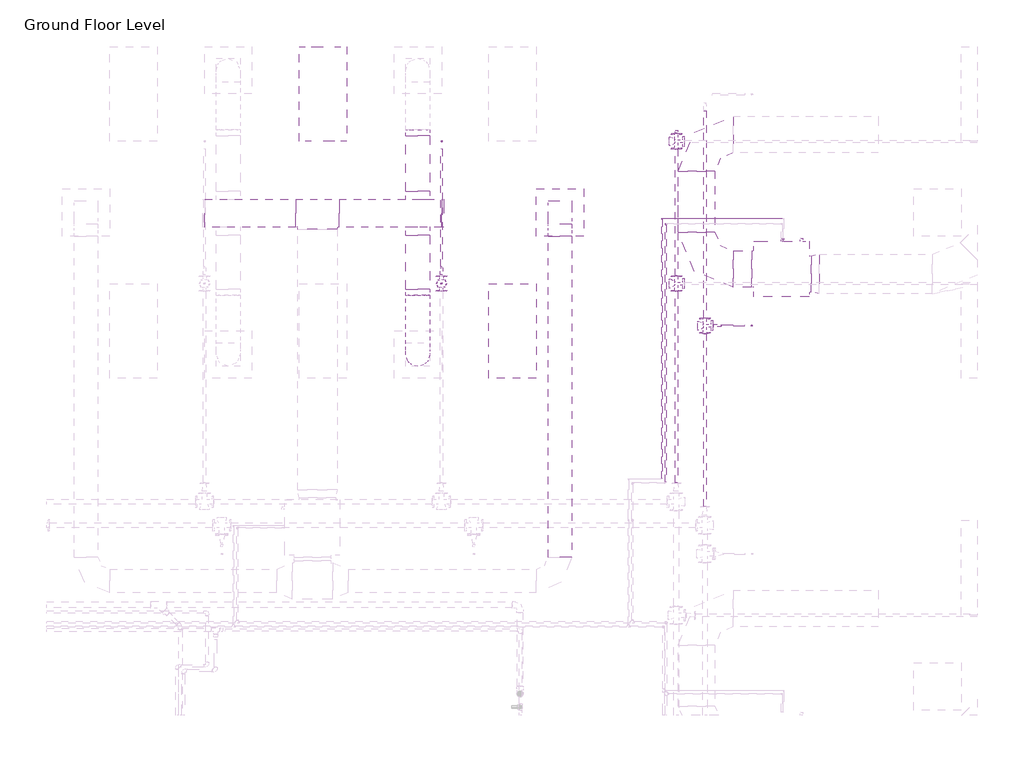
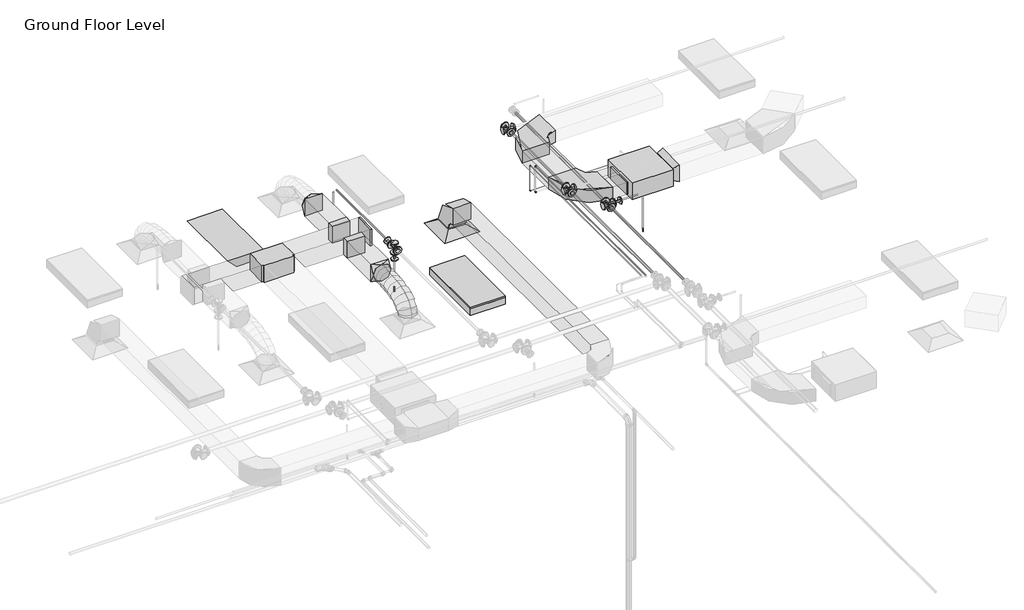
# One storey, part 71 of 74: 15 pipe segments, 11 pipe fittings, 10 duct fittings, 9 duct segments, 3 fire suppression terminals, 2 light fixtures, 1 air terminal, 1 proxy.
"""IFC4 building model written with IfcOpenShell, lengths in millimetres."""

from ifc_helpers import new_model, si_unit, point, frame, frame_2d, origin, place, context, project, spatial, polyline, circle_curve, ellipse_curve, trimmed, segment, composite_curve, outline, extrude, transform, mapped, element, save
from ifc_brep_helpers import plane_surface, cylinder_surface, advanced_brep
from components import m_return_diffuser_600_x_600_face_300_x_300_connection_ff221211, fcu_daikin_iu_bad131e0, m_rectangular_elbow_radius_1_w_618da153, m_rectangular_elbow_radius_1_w_54c96895, m_rectangular_endcap_standard_eed78c44, m_rectangular_takeoff_standard_cb0ccb98, m_rectangular_takeoff_standard_2be5eba1, m_rectangular_tee_standard_9fc1ddf1, m_rectangular_transition_angle_45_degree_2b595dfe, m_rectangular_to_round_transition_angle_45_degree_641efff0, m_sprinkler_dry_pendent_hosted_15_mm_dry_pendent_9bda8e11, m_sprinkler_pendent_15_mm_pendent_06fcbd8e, m_emergency_recessed_lighting_fixture_600x1200_277_5b10b25d, m_troffer_light_parabolic_rectangular1_0600x1200mm_4_lamp_86473d4a, m_elbow_generic_standard_a088f956, m_elbow_generic_standard_2a704253, m_reducer_flanged_cs_class_150_standard_d42b2106, m_tee_round_base_flanged_cs_class_150_standard_7e5987a1

model = new_model("IFC4")

# Units and contexts
model_context = context("Model", 3, world=origin())
ifc_project = project(units=[si_unit("LENGTHUNIT", "METRE", prefix="MILLI")], contexts=[model_context])

# Site, building, storey
site = spatial("IfcSite", under=ifc_project)
building = spatial("IfcBuilding", under=site)
storey = spatial("IfcBuildingStorey", under=building, Name="Ground Floor Level", Elevation=900.0)

# Air terminal
placement = place(None, origin())
m_return_diffuser_600_x_600_face_300_x_300_connection_shape = m_return_diffuser_600_x_600_face_300_x_300_connection_ff221211(model_context)
element("IfcAirTerminal", 1, ObjectType="M_Return Diffuser : 600 x 600 Face 300 x 300 Connection", at=placement, inside=storey, context=model_context, shape_type="MappedRepresentation", body=[
    mapped(m_return_diffuser_600_x_600_face_300_x_300_connection_shape, transform((4162.7672395, 18735.2153534, 3650.0), x_axis=(1.0, 0.0, 0.0), y_axis=(0.0, 1.0, 0.0), z_axis=(0.0, 0.0, 1.0))),
])

# Proxy
fcu_daikin_iu_shape = fcu_daikin_iu_bad131e0(model_context)
element("IfcBuildingElementProxy", 2, Name="FCU-DAIKIN IU : 4.5kW, 230V/50Hz/1Ph", ObjectType="FCU-DAIKIN IU : 4.5kW, 230V/50Hz/1Ph", at=placement, inside=storey, context=model_context, shape_type="MappedRepresentation", body=[
    mapped(fcu_daikin_iu_shape, transform((6968.8139492, 18019.6779527, 3934.0932729), x_axis=(0.0, 1.0, 0.0), y_axis=(-1.0, 0.0, 0.0), z_axis=(0.0, 0.0, 1.0))),
])

# Duct fittings
m_rectangular_elbow_radius_1_w_shape = m_rectangular_elbow_radius_1_w_618da153(model_context)
element("IfcDuctFitting", 3, ObjectType="M_Rectangular Elbow - Radius : 1 W", at=placement, inside=storey, context=model_context, shape_type="MappedRepresentation", body=[
    mapped(m_rectangular_elbow_radius_1_w_shape, transform((4162.7672395, 18735.2153534, 4075.2872564), x_axis=(0.0, 0.0, 1.0), y_axis=(0.0, -1.0, 0.0), z_axis=(1.0, 0.0, 0.0))),
])
m_rectangular_elbow_radius_1_w_2_shape = m_rectangular_elbow_radius_1_w_54c96895(model_context)
element("IfcDuctFitting", 4, ObjectType="M_Rectangular Elbow - Radius : 1 W", at=placement, inside=storey, context=model_context, shape_type="MappedRepresentation", body=[
    mapped(m_rectangular_elbow_radius_1_w_2_shape, transform((5893.4139492, 18019.6779527, 4075.2932729), x_axis=(0.0, -1.0, 0.0), y_axis=(1.0, 0.0, 0.0), z_axis=(0.0, 0.0, 1.0))),
])
element("IfcDuctFitting", 5, ObjectType="M_Rectangular Elbow - Radius : 1 W", at=placement, inside=storey, context=model_context, shape_type="MappedRepresentation", body=[
    mapped(m_rectangular_elbow_radius_1_w_2_shape, transform((5893.4139492, 19719.6783949, 4075.2932729), x_axis=(-1.0, 0.0, 0.0), y_axis=(0.0, -1.0, 0.0), z_axis=(0.0, 0.0, 1.0))),
])
m_rectangular_endcap_standard_shape = m_rectangular_endcap_standard_eed78c44(model_context)
element("IfcDuctFitting", 6, ObjectType="M_Rectangular Endcap : Standard", at=placement, inside=storey, context=model_context, shape_type="MappedRepresentation", body=[
    mapped(m_rectangular_endcap_standard_shape, transform((2666.2672001, 18724.6783949, 4099.998205), x_axis=(0.9999999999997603, 0.0, -6.924715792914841e-07), y_axis=(0.0, 1.0000000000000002, 0.0), z_axis=(6.924715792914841e-07, 0.0, 0.9999999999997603))),
])
m_rectangular_takeoff_standard_shape = m_rectangular_takeoff_standard_cb0ccb98(model_context)
element("IfcDuctFitting", 7, ObjectType="M_Rectangular Takeoff : Standard", at=placement, inside=storey, context=model_context, shape_type="MappedRepresentation", body=[
    mapped(m_rectangular_takeoff_standard_shape, transform((2362.7672395, 18899.6783949, 4099.9984152), x_axis=(0.0, 1.0, 0.0), y_axis=(1.0, 0.0, 0.0), z_axis=(0.0, 0.0, -1.0))),
])
m_rectangular_takeoff_standard_2_shape = m_rectangular_takeoff_standard_2be5eba1(model_context)
element("IfcDuctFitting", 8, ObjectType="M_Rectangular Takeoff : Standard", at=placement, inside=storey, context=model_context, shape_type="MappedRepresentation", body=[
    mapped(m_rectangular_takeoff_standard_2_shape, transform((2362.7672395, 18549.6783949, 4099.9984152), x_axis=(0.0, -1.0, 0.0), y_axis=(-1.0, 0.0, 0.0), z_axis=(0.0, 0.0, -1.0))),
])
m_rectangular_tee_standard_shape = m_rectangular_tee_standard_9fc1ddf1(model_context)
element("IfcDuctFitting", 9, ObjectType="M_Rectangular Tee : Standard", at=placement, inside=storey, context=model_context, shape_type="MappedRepresentation", body=[
    mapped(m_rectangular_tee_standard_shape, transform((1091.2672395, 18724.6783949, 4099.9992264), x_axis=(0.999999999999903, 0.0, -4.406637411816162e-07), y_axis=(-1.704451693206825e-12, 0.9999999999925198, -3.867919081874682e-06), z_axis=(4.406637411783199e-07, 3.867919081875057e-06, 0.9999999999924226))),
])
m_rectangular_transition_angle_45_degree_shape = m_rectangular_transition_angle_45_degree_2b595dfe(model_context)
element("IfcDuctFitting", 10, ObjectType="M_Rectangular Transition - Angle : 45 Degree", at=placement, inside=storey, context=model_context, shape_type="MappedRepresentation", body=[
    mapped(m_rectangular_transition_angle_45_degree_shape, transform((7344.2139492, 17956.1779527, 4100.0057729), x_axis=(1.0, 0.0, 0.0), y_axis=(0.0, 1.0, 0.0), z_axis=(0.0, 0.0, 1.0))),
])
m_rectangular_to_round_transition_angle_45_degree_shape = m_rectangular_to_round_transition_angle_45_degree_641efff0(model_context)
element("IfcDuctFitting", 11, ObjectType="M_Rectangular to Round Transition - Angle : 45 Degree", at=placement, inside=storey, context=model_context, shape_type="MappedRepresentation", body=[
    mapped(m_rectangular_to_round_transition_angle_45_degree_shape, transform((2362.7672395, 19707.8778373, 4099.9984152), x_axis=(0.0, 1.0, 0.0), y_axis=(-1.0, 0.0, 0.0), z_axis=(0.0, 0.0, 1.0))),
])
element("IfcDuctFitting", 12, ObjectType="M_Rectangular to Round Transition - Angle : 45 Degree", at=placement, inside=storey, context=model_context, shape_type="MappedRepresentation", body=[
    mapped(m_rectangular_to_round_transition_angle_45_degree_shape, transform((2362.7672395, 17762.5528695, 4099.9984152), x_axis=(0.0, -1.0, 0.0), y_axis=(1.0, 0.0, 0.0), z_axis=(0.0, 0.0, 1.0))),
])

# Duct segments
element("IfcDuctSegment", 13, ObjectType="Flex - Round", at=placement, inside=storey, context=model_context, shape_type="AdvancedBrep", body=[
    advanced_brep(
    [(2512.7672395, 16935.2153534, 3826.6), (2362.7672395, 16785.2153534, 3826.6), (2212.7672395, 16935.2153534, 3826.6), (2362.7672395, 17085.2153534, 3826.6), (2512.7672395, 16935.2153534, 3857.937778), (2362.7672395, 16785.2153534, 3883.5810816), (2212.7672395, 16935.2153534, 3857.937778), (2362.7672395, 17085.2153534, 3832.2944744), (2512.7672395, 16952.2313299, 3906.2506017), (2362.7672395, 16818.4934508, 3978.0663351), (2212.7672395, 16952.2313299, 3906.2506017), (2362.7672395, 17085.969209, 3834.4348684), (2512.7672395, 16999.4153299, 3968.7112406), (2362.7672395, 16895.2097019, 4079.6208039), (2212.7672395, 16999.4153299, 3968.7112406), (2362.7672395, 17103.6209579, 3857.8016772), (2512.7672395, 17070.9714591, 4016.0697935), (2362.7672395, 17002.0378309, 4150.3237004), (2212.7672395, 17070.9714591, 4016.0697935), (2362.7672395, 17139.9050873, 3881.8158865), (2512.7672395, 17161.1038233, 4050.4141374), (2362.7672395, 17117.5435273, 4194.3363855), (2212.7672395, 17161.1038233, 4050.4141374), (2362.7672395, 17204.6641192, 3906.4918893), (2512.7672395, 17264.0165282, 4073.8321493), (2362.7672395, 17237.4560471, 4221.6227426), (2212.7672395, 17264.0165282, 4073.8321493), (2362.7672395, 17290.5770092, 3926.0415559), (2512.7672395, 17373.9136795, 4088.411706), (2362.7672395, 17358.7631621, 4237.7160075), (2212.7672395, 17373.9136795, 4088.411706), (2362.7672395, 17389.0641968, 3939.1074046), (2512.7672395, 17484.999383, 4096.2406846), (2362.7672395, 17477.4943543, 4246.0838166), (2212.7672395, 17484.999383, 4096.2406846), (2362.7672395, 17492.5044117, 3946.3975526), (2512.7672395, 17591.4777444, 4099.406962), (2362.7672395, 17588.7864273, 4249.3932362), (2212.7672395, 17591.4777444, 4099.406962), (2362.7672395, 17594.1690615, 3949.4206879), (2512.7672395, 17687.5528695, 4099.9984152), (2362.7672395, 17688.4762749, 3950.0012575), (2212.7672395, 17687.5528695, 4099.9984152), (2362.7672395, 17686.6294641, 4249.9955729)],
    [
        (0, 1, circle_curve(frame((2362.7672395, 16935.2153534, 3826.6), z_axis=(0.0, 0.0, -1.0), x_axis=(1.0, 0.0, 0.0)), 150.0)),
        (1, 2, circle_curve(frame((2362.7672395, 16935.2153534, 3826.6), z_axis=(0.0, 0.0, -1.0), x_axis=(1.0, 0.0, 0.0)), 150.0)),
        (2, 3, circle_curve(frame((2362.7672395, 16935.2153534, 3826.6), z_axis=(0.0, 0.0, -1.0), x_axis=(1.0, 0.0, 0.0)), 150.0)),
        (3, 0, circle_curve(frame((2362.7672395, 16935.2153534, 3826.6), z_axis=(0.0, 0.0, -1.0), x_axis=(1.0, 0.0, 0.0)), 150.0)),
        (0, 4),
        (4, 5, ellipse_curve(frame((2362.7672395, 16935.2153534, 3857.937778), z_axis=(0.0, -0.16851066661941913, -0.9856998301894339), x_axis=(0.0, 0.9856998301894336, -0.16851066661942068)), 152.1761447, 150.0)),
        (5, 1),
        (5, 6, ellipse_curve(frame((2362.7672395, 16935.2153534, 3857.937778), z_axis=(0.0, -0.16851066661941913, -0.9856998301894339), x_axis=(0.0, 0.9856998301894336, -0.16851066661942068)), 152.1761447, 150.0)),
        (6, 2),
        (6, 7, ellipse_curve(frame((2362.7672395, 16935.2153534, 3857.937778), z_axis=(0.0, -0.16851066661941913, -0.9856998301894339), x_axis=(0.0, 0.9856998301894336, -0.16851066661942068)), 152.1761447, 150.0)),
        (7, 3),
        (7, 4, ellipse_curve(frame((2362.7672395, 16935.2153534, 3857.937778), z_axis=(0.0, -0.16851066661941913, -0.9856998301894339), x_axis=(0.0, 0.9856998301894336, -0.16851066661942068)), 152.1761447, 150.0)),
        (4, 8),
        (8, 9, ellipse_curve(frame((2362.7672395, 16952.2313299, 3906.2506017), z_axis=(0.0, -0.4730936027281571, -0.8810121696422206), x_axis=(0.0, 0.8810121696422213, -0.47309360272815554)), 151.8002631, 150.0)),
        (9, 5),
        (9, 10, ellipse_curve(frame((2362.7672395, 16952.2313299, 3906.2506017), z_axis=(0.0, -0.4730936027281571, -0.8810121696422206), x_axis=(0.0, 0.8810121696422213, -0.47309360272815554)), 151.8002631, 150.0)),
        (10, 6),
        (10, 11, ellipse_curve(frame((2362.7672395, 16952.2313299, 3906.2506017), z_axis=(0.0, -0.4730936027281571, -0.8810121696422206), x_axis=(0.0, 0.8810121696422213, -0.47309360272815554)), 151.8002631, 150.0)),
        (11, 7),
        (11, 8, ellipse_curve(frame((2362.7672395, 16952.2313299, 3906.2506017), z_axis=(0.0, -0.4730936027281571, -0.8810121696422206), x_axis=(0.0, 0.8810121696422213, -0.47309360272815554)), 151.8002631, 150.0)),
        (8, 12),
        (12, 13, ellipse_curve(frame((2362.7672395, 16999.4153299, 3968.7112406), z_axis=(0.0, -0.7287895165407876, -0.6847377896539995), x_axis=(0.0, 0.6847377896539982, -0.7287895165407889)), 152.1832584, 150.0)),
        (13, 9),
        (13, 14, ellipse_curve(frame((2362.7672395, 16999.4153299, 3968.7112406), z_axis=(0.0, -0.7287895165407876, -0.6847377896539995), x_axis=(0.0, 0.6847377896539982, -0.7287895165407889)), 152.1832584, 150.0)),
        (14, 10),
        (14, 15, ellipse_curve(frame((2362.7672395, 16999.4153299, 3968.7112406), z_axis=(0.0, -0.7287895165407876, -0.6847377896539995), x_axis=(0.0, 0.6847377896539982, -0.7287895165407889)), 152.1832584, 150.0)),
        (15, 11),
        (15, 12, ellipse_curve(frame((2362.7672395, 16999.4153299, 3968.7112406), z_axis=(0.0, -0.7287895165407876, -0.6847377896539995), x_axis=(0.0, 0.6847377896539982, -0.7287895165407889)), 152.1832584, 150.0)),
        (12, 16),
        (16, 17, ellipse_curve(frame((2362.7672395, 17070.9714591, 4016.0697935), z_axis=(0.0, -0.8895873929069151, -0.45676500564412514), x_axis=(0.0, 0.45676500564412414, -0.8895873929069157)), 150.9170521, 150.0)),
        (17, 13),
        (17, 18, ellipse_curve(frame((2362.7672395, 17070.9714591, 4016.0697935), z_axis=(0.0, -0.8895873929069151, -0.45676500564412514), x_axis=(0.0, 0.45676500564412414, -0.8895873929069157)), 150.9170521, 150.0)),
        (18, 14),
        (18, 19, ellipse_curve(frame((2362.7672395, 17070.9714591, 4016.0697935), z_axis=(0.0, -0.8895873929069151, -0.45676500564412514), x_axis=(0.0, 0.45676500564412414, -0.8895873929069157)), 150.9170521, 150.0)),
        (19, 15),
        (19, 16, ellipse_curve(frame((2362.7672395, 17070.9714591, 4016.0697935), z_axis=(0.0, -0.8895873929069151, -0.45676500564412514), x_axis=(0.0, 0.45676500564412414, -0.8895873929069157)), 150.9170521, 150.0)),
        (16, 20),
        (20, 21, ellipse_curve(frame((2362.7672395, 17161.1038233, 4050.4141374), z_axis=(0.0, -0.9571212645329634, -0.2896875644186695), x_axis=(0.0, 0.2896875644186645, -0.957121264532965)), 150.3699202, 150.0)),
        (21, 17),
        (21, 22, ellipse_curve(frame((2362.7672395, 17161.1038233, 4050.4141374), z_axis=(0.0, -0.9571212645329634, -0.2896875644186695), x_axis=(0.0, 0.2896875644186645, -0.957121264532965)), 150.3699202, 150.0)),
        (22, 18),
        (22, 23, ellipse_curve(frame((2362.7672395, 17161.1038233, 4050.4141374), z_axis=(0.0, -0.9571212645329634, -0.2896875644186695), x_axis=(0.0, 0.2896875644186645, -0.957121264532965)), 150.3699202, 150.0)),
        (23, 19),
        (23, 20, ellipse_curve(frame((2362.7672395, 17161.1038233, 4050.4141374), z_axis=(0.0, -0.9571212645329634, -0.2896875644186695), x_axis=(0.0, 0.2896875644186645, -0.957121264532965)), 150.3699202, 150.0)),
        (20, 24),
        (24, 25, ellipse_curve(frame((2362.7672395, 17264.0165282, 4073.8321493), z_axis=(0.0, -0.9842318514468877, -0.17688318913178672), x_axis=(0.0, 0.17688318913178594, -0.9842318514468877)), 150.1583119, 150.0)),
        (25, 21),
        (25, 26, ellipse_curve(frame((2362.7672395, 17264.0165282, 4073.8321493), z_axis=(0.0, -0.9842318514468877, -0.17688318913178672), x_axis=(0.0, 0.17688318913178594, -0.9842318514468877)), 150.1583119, 150.0)),
        (26, 22),
        (26, 27, ellipse_curve(frame((2362.7672395, 17264.0165282, 4073.8321493), z_axis=(0.0, -0.9842318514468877, -0.17688318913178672), x_axis=(0.0, 0.17688318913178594, -0.9842318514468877)), 150.1583119, 150.0)),
        (27, 23),
        (27, 24, ellipse_curve(frame((2362.7672395, 17264.0165282, 4073.8321493), z_axis=(0.0, -0.9842318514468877, -0.17688318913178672), x_axis=(0.0, 0.17688318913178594, -0.9842318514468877)), 150.1583119, 150.0)),
        (24, 28),
        (28, 29, ellipse_curve(frame((2362.7672395, 17373.9136795, 4088.411706), z_axis=(0.0, -0.9948909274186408, -0.10095564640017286), x_axis=(0.0, 0.10095564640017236, -0.9948909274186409)), 150.0710252, 150.0)),
        (29, 25),
        (29, 30, ellipse_curve(frame((2362.7672395, 17373.9136795, 4088.411706), z_axis=(0.0, -0.9948909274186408, -0.10095564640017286), x_axis=(0.0, 0.10095564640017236, -0.9948909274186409)), 150.0710252, 150.0)),
        (30, 26),
        (30, 31, ellipse_curve(frame((2362.7672395, 17373.9136795, 4088.411706), z_axis=(0.0, -0.9948909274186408, -0.10095564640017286), x_axis=(0.0, 0.10095564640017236, -0.9948909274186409)), 150.0710252, 150.0)),
        (31, 27),
        (31, 28, ellipse_curve(frame((2362.7672395, 17373.9136795, 4088.411706), z_axis=(0.0, -0.9948909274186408, -0.10095564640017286), x_axis=(0.0, 0.10095564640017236, -0.9948909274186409)), 150.0710252, 150.0)),
        (28, 32),
        (32, 33, ellipse_curve(frame((2362.7672395, 17484.999383, 4096.2406846), z_axis=(0.0, -0.9987480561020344, -0.05002319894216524), x_axis=(0.0, 0.0500231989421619, -0.9987480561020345)), 150.0309623, 150.0)),
        (33, 29),
        (33, 34, ellipse_curve(frame((2362.7672395, 17484.999383, 4096.2406846), z_axis=(0.0, -0.9987480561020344, -0.05002319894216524), x_axis=(0.0, 0.0500231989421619, -0.9987480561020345)), 150.0309623, 150.0)),
        (34, 30),
        (34, 35, ellipse_curve(frame((2362.7672395, 17484.999383, 4096.2406846), z_axis=(0.0, -0.9987480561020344, -0.05002319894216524), x_axis=(0.0, 0.0500231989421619, -0.9987480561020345)), 150.0309623, 150.0)),
        (35, 31),
        (35, 32, ellipse_curve(frame((2362.7672395, 17484.999383, 4096.2406846), z_axis=(0.0, -0.9987480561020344, -0.05002319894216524), x_axis=(0.0, 0.0500231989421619, -0.9987480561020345)), 150.0309623, 150.0)),
        (32, 36),
        (36, 37, ellipse_curve(frame((2362.7672395, 17591.4777444, 4099.406962), z_axis=(0.0, -0.99983904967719, -0.0179408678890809), x_axis=(0.0, 0.017940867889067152, -0.9998390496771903)), 150.0104184, 150.0)),
        (37, 33),
        (37, 38, ellipse_curve(frame((2362.7672395, 17591.4777444, 4099.406962), z_axis=(0.0, -0.99983904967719, -0.0179408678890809), x_axis=(0.0, 0.017940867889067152, -0.9998390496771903)), 150.0104184, 150.0)),
        (38, 34),
        (38, 39, ellipse_curve(frame((2362.7672395, 17591.4777444, 4099.406962), z_axis=(0.0, -0.99983904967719, -0.0179408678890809), x_axis=(0.0, 0.017940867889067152, -0.9998390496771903)), 150.0104184, 150.0)),
        (39, 35),
        (39, 36, ellipse_curve(frame((2362.7672395, 17591.4777444, 4099.406962), z_axis=(0.0, -0.99983904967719, -0.0179408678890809), x_axis=(0.0, 0.017940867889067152, -0.9998390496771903)), 150.0104184, 150.0)),
        (40, 41, circle_curve(frame((2362.7672395, 17687.5528695, 4099.9984152), z_axis=(0.0, 0.9999810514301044, 0.006156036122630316), x_axis=(1.0, 0.0, 0.0)), 150.0)),
        (41, 42, circle_curve(frame((2362.7672395, 17687.5528695, 4099.9984152), z_axis=(0.0, 0.9999810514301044, 0.006156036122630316), x_axis=(1.0, 0.0, 0.0)), 150.0)),
        (42, 43, circle_curve(frame((2362.7672395, 17687.5528695, 4099.9984152), z_axis=(0.0, 0.9999810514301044, 0.006156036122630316), x_axis=(1.0, 0.0, 0.0)), 150.0)),
        (43, 40, circle_curve(frame((2362.7672395, 17687.5528695, 4099.9984152), z_axis=(0.0, 0.9999810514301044, 0.006156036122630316), x_axis=(1.0, 0.0, 0.0)), 150.0)),
        (36, 40),
        (43, 37),
        (42, 38),
        (41, 39),
    ],
    [
        plane_surface(frame((2362.7672395, 16785.2153534, 3826.6), z_axis=(0.0, 0.0, -1.0), x_axis=(1.0, 0.0, 0.0))),
        cylinder_surface(frame((2362.7672395, 16935.2153534, 3826.6), z_axis=(0.0, 0.0, -1.0), x_axis=(1.0, 0.0, 0.0)), 150.0),
        cylinder_surface(frame((2362.7672395, 16935.2153534, 3857.937778), z_axis=(0.0, -0.33220187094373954, -0.943208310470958), x_axis=(1.0, 0.0, 0.0)), 150.0),
        cylinder_surface(frame((2362.7672395, 16952.2313299, 3906.2506017), z_axis=(0.0, -0.6027641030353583, -0.7979194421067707), x_axis=(1.0, 0.0, 0.0)), 150.0),
        cylinder_surface(frame((2362.7672395, 16999.4153299, 3968.7112406), z_axis=(0.0, -0.8339041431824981, -0.5519093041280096), x_axis=(1.0, 0.0, 0.0)), 150.0),
        cylinder_surface(frame((2362.7672395, 17070.9714591, 4016.0697935), z_axis=(0.0, -0.9344594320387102, -0.35606961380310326), x_axis=(1.0, 0.0, 0.0)), 150.0),
        cylinder_surface(frame((2362.7672395, 17161.1038233, 4050.4141374), z_axis=(0.0, -0.9750739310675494, -0.2218802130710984), x_axis=(1.0, 0.0, 0.0)), 150.0),
        cylinder_surface(frame((2362.7672395, 17264.0165282, 4073.8321493), z_axis=(0.0, -0.9913144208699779, -0.13151318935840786), x_axis=(1.0, 0.0, 0.0)), 150.0),
        cylinder_surface(frame((2362.7672395, 17373.9136795, 4088.411706), z_axis=(0.0, -0.9975257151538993, -0.07030254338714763), x_axis=(1.0, 0.0, 0.0)), 150.0),
        cylinder_surface(frame((2362.7672395, 17484.999383, 4096.2406846), z_axis=(0.0, -0.9995581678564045, -0.029723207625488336), x_axis=(1.0, 0.0, 0.0)), 150.0),
        plane_surface(frame((2362.7672395, 17686.6294641, 4249.9955729), z_axis=(0.0, 0.9999810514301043, 0.006156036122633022), x_axis=(1.0, 0.0, 0.0))),
        cylinder_surface(frame((2362.7672395, 17591.4777444, 4099.406962), z_axis=(0.0, -0.9999810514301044, -0.006156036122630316), x_axis=(1.0, 0.0, 0.0)), 150.0),
    ],
    [
        (0, [[1, 2, 3, 4]]),
        (1, [[-1, 5, 6, 7]]),
        (1, [[-2, -7, 8, 9]]),
        (1, [[-3, -9, 10, 11]]),
        (1, [[-4, -11, 12, -5]]),
        (2, [[-6, 13, 14, 15]]),
        (2, [[-8, -15, 16, 17]]),
        (2, [[-10, -17, 18, 19]]),
        (2, [[-12, -19, 20, -13]]),
        (3, [[-14, 21, 22, 23]]),
        (3, [[-16, -23, 24, 25]]),
        (3, [[-18, -25, 26, 27]]),
        (3, [[-20, -27, 28, -21]]),
        (4, [[-22, 29, 30, 31]]),
        (4, [[-24, -31, 32, 33]]),
        (4, [[-26, -33, 34, 35]]),
        (4, [[-28, -35, 36, -29]]),
        (5, [[-30, 37, 38, 39]]),
        (5, [[-32, -39, 40, 41]]),
        (5, [[-34, -41, 42, 43]]),
        (5, [[-36, -43, 44, -37]]),
        (6, [[-38, 45, 46, 47]]),
        (6, [[-40, -47, 48, 49]]),
        (6, [[-42, -49, 50, 51]]),
        (6, [[-44, -51, 52, -45]]),
        (7, [[-46, 53, 54, 55]]),
        (7, [[-48, -55, 56, 57]]),
        (7, [[-50, -57, 58, 59]]),
        (7, [[-52, -59, 60, -53]]),
        (8, [[-54, 61, 62, 63]]),
        (8, [[-56, -63, 64, 65]]),
        (8, [[-58, -65, 66, 67]]),
        (8, [[-60, -67, 68, -61]]),
        (9, [[-62, 69, 70, 71]]),
        (9, [[-64, -71, 72, 73]]),
        (9, [[-66, -73, 74, 75]]),
        (9, [[-68, -75, 76, -69]]),
        (10, [[77, 78, 79, 80]]),
        (11, [[-70, 81, -80, 82]]),
        (11, [[-72, -82, -79, 83]]),
        (11, [[-74, -83, -78, 84]]),
        (11, [[-76, -84, -77, -81]]),
    ],
),
])
element("IfcDuctSegment", 14, ObjectType="Radius Elbows / Taps", at=placement, inside=storey, context=model_context, shape_type="SweptSolid", body=[
    extrude(outline(polyline([(1366.2672395, 18549.6783949), (1366.2672395, 18899.6783949), (2666.2672001, 18899.6783949), (2666.2672001, 18549.6783949), (1366.2672395, 18549.6783949)])), frame((0.0, 0.0, 3949.9991052), z_axis=(0.0, 0.0, 1.0), x_axis=(1.0, 0.0, 0.0)), (0.0, 0.0, 1.0), 300.0),
])
element("IfcDuctSegment", 15, ObjectType="Radius Elbows / Taps", at=placement, inside=storey, context=model_context, shape_type="SweptSolid", body=[
    extrude(outline(polyline([(816.2672395, 18899.6783949), (816.2672395, 18549.6783949), (-337.2326293, 18549.6783949), (-337.2326293, 18899.6783949), (816.2672395, 18899.6783949)])), frame((0.0, 0.0, 3949.9993476), z_axis=(0.0, 0.0, 1.0), x_axis=(1.0, 0.0, 0.0)), (0.0, 0.0, 1.0), 300.0),
])
element("IfcDuctSegment", 16, ObjectType="Radius Elbows / Taps", at=placement, inside=storey, context=model_context, shape_type="SweptSolid", body=[
    extrude(outline(polyline([(4312.7672395, 14369.8153534), (4012.7672395, 14369.8153534), (4012.7672395, 18435.2153534), (4312.7672395, 18435.2153534), (4312.7672395, 14369.8153534)])), frame((0.0, 0.0, 3925.2872564), z_axis=(0.0, 0.0, 1.0), x_axis=(1.0, 0.0, 0.0)), (0.0, 0.0, 1.0), 300.0),
])
element("IfcDuctSegment", 17, ObjectType="Radius Elbows / Taps", at=placement, inside=storey, context=model_context, shape_type="SweptSolid", body=[
    extrude(outline(polyline([(4312.7672395, 18585.2153534), (4012.7672395, 18585.2153534), (4012.7672395, 18885.2153534), (4312.7672395, 18885.2153534), (4312.7672395, 18585.2153534)])), frame((0.0, 0.0, 3751.6), z_axis=(0.0, 0.0, 1.0), x_axis=(1.0, 0.0, 0.0)), (0.0, 0.0, 1.0), 23.6872564),
])
element("IfcDuctSegment", 18, ObjectType="Radius Elbows / Taps", at=placement, inside=storey, context=model_context, shape_type="SweptSolid", body=[
    extrude(outline(polyline([(6593.4139492, 18250.6154527), (6593.4139492, 17788.7404527), (6355.2889492, 17788.7404527), (6355.2889492, 18250.6154527), (6593.4139492, 18250.6154527)])), frame((0.0, 0.0, 3968.1432729), z_axis=(0.0, 0.0, 1.0), x_axis=(1.0, 0.0, 0.0)), (0.0, 0.0, 1.0), 214.3),
])
element("IfcDuctSegment", 19, ObjectType="Radius Elbows / Taps", at=placement, inside=storey, context=model_context, shape_type="SweptSolid", body=[
    extrude(outline(polyline([(6124.3514492, 18481.5529527), (5662.4764492, 18481.5529527), (5662.4764492, 19257.8033949), (6124.3514492, 19257.8033949), (6124.3514492, 18481.5529527)])), frame((0.0, 0.0, 3968.1432729), z_axis=(0.0, 0.0, 1.0), x_axis=(1.0, 0.0, 0.0)), (0.0, 0.0, 1.0), 214.3),
])
element("IfcDuctSegment", 20, ObjectType="Radius Elbows / Taps", at=placement, inside=storey, context=model_context, shape_type="SweptSolid", body=[
    extrude(outline(polyline([(2512.7672395, 19001.2783949), (2212.7672395, 19001.2783949), (2212.7672395, 19707.8778373), (2512.7672395, 19707.8778373), (2512.7672395, 19001.2783949)])), frame((0.0, 0.0, 3949.9984152), z_axis=(0.0, 0.0, 1.0), x_axis=(1.0, 0.0, 0.0)), (0.0, 0.0, 1.0), 300.0),
])
element("IfcDuctSegment", 21, ObjectType="Radius Elbows / Taps", at=placement, inside=storey, context=model_context, shape_type="SweptSolid", body=[
    extrude(outline(polyline([(2212.7672395, 18448.0783949), (2512.7672395, 18448.0783949), (2512.7672395, 17762.5528695), (2212.7672395, 17762.5528695), (2212.7672395, 18448.0783949)])), frame((0.0, 0.0, 3949.9984152), z_axis=(0.0, 0.0, 1.0), x_axis=(1.0, 0.0, 0.0)), (0.0, 0.0, 1.0), 300.0),
])

# Fire suppression terminals
m_sprinkler_dry_pendent_hosted_15_mm_dry_pendent_shape = m_sprinkler_dry_pendent_hosted_15_mm_dry_pendent_9bda8e11(model_context)
element("IfcFireSuppressionTerminal", 22, ObjectType="M_Sprinkler - Dry - Pendent - Hosted : 15 mm Dry Pendent", at=placement, inside=storey, context=model_context, shape_type="MappedRepresentation", body=[
    mapped(m_sprinkler_dry_pendent_hosted_15_mm_dry_pendent_shape, transform((2662.7672395, 19635.2153534, 3650.0), x_axis=(1.0, 0.0, 0.0), y_axis=(0.0, -1.0, 0.0), z_axis=(0.0, 0.0, -1.0))),
])
element("IfcFireSuppressionTerminal", 23, ObjectType="M_Sprinkler - Dry - Pendent - Hosted : 15 mm Dry Pendent", at=placement, inside=storey, context=model_context, shape_type="MappedRepresentation", body=[
    mapped(m_sprinkler_dry_pendent_hosted_15_mm_dry_pendent_shape, transform((2662.7672395, 17835.2153534, 3650.0), x_axis=(1.0, 0.0, 0.0), y_axis=(0.0, -1.0, 0.0), z_axis=(0.0, 0.0, -1.0))),
])
m_sprinkler_pendent_15_mm_pendent_shape = m_sprinkler_pendent_15_mm_pendent_06fcbd8e(model_context)
element("IfcFireSuppressionTerminal", 24, ObjectType="M_Sprinkler - Pendent : 15 mm Pendent", at=placement, inside=storey, context=model_context, shape_type="MappedRepresentation", body=[
    mapped(m_sprinkler_pendent_15_mm_pendent_shape, transform((6592.5481019, 17301.8585069, 3650.0), x_axis=(1.0, 0.0, 0.0), y_axis=(0.0, 1.0, 0.0), z_axis=(0.0, 0.0, 1.0))),
])

# Light fixtures
m_emergency_recessed_lighting_fixture_600x1200_277_shape = m_emergency_recessed_lighting_fixture_600x1200_277_5b10b25d(model_context)
element("IfcLightFixture", 25, ObjectType="M_Emergency Recessed Lighting Fixture : 600x1200 - 277", at=placement, inside=storey, context=model_context, shape_type="MappedRepresentation", body=[
    mapped(m_emergency_recessed_lighting_fixture_600x1200_277_shape, transform((862.7672395, 19635.2153534, 3650.0), x_axis=(0.0, 1.0, 0.0), y_axis=(-1.0, 0.0, 0.0), z_axis=(0.0, 0.0, 1.0))),
])
m_troffer_light_parabolic_rectangular1_0600x1200mm_4_lamp_shape = m_troffer_light_parabolic_rectangular1_0600x1200mm_4_lamp_86473d4a(model_context)
element("IfcLightFixture", 26, ObjectType="M_Troffer Light - Parabolic Rectangular1 : 0600x1200mm(4 Lamp) - 277V 2", at=placement, inside=storey, context=model_context, shape_type="MappedRepresentation", body=[
    mapped(m_troffer_light_parabolic_rectangular1_0600x1200mm_4_lamp_shape, transform((3503.3013074, 17253.918855, 3650.0), x_axis=(0.0, 1.0, 0.0), y_axis=(-1.0, 0.0, 0.0), z_axis=(0.0, 0.0, 1.0))),
])

# Pipe fittings
m_elbow_generic_standard_shape = m_elbow_generic_standard_a088f956(model_context)
element("IfcPipeFitting", 27, ObjectType="M_Elbow - Generic : Standard", at=placement, inside=storey, context=model_context, shape_type="MappedRepresentation", body=[
    mapped(m_elbow_generic_standard_shape, transform((5501.7675988, 18590.9278534, 4380.0), x_axis=(0.0, 0.0, 1.0), y_axis=(0.0, -1.0, 0.0), z_axis=(1.0, 0.0, 0.0))),
])
element("IfcPipeFitting", 28, ObjectType="M_Elbow - Generic : Standard", at=placement, inside=storey, context=model_context, shape_type="MappedRepresentation", body=[
    mapped(m_elbow_generic_standard_shape, transform((5501.7675988, 18590.9278534, 3900.0), x_axis=(0.0, 0.0, -1.0), y_axis=(1.0, 0.0, 0.0), z_axis=(0.0, -1.0, 0.0))),
])
m_elbow_generic_standard_2_shape = m_elbow_generic_standard_2a704253(model_context)
element("IfcPipeFitting", 29, ObjectType="M_Elbow - Generic : Standard", at=placement, inside=storey, context=model_context, shape_type="MappedRepresentation", body=[
    mapped(m_elbow_generic_standard_2_shape, transform((5452.0810646, 18659.0778536, 4365.0), x_axis=(0.0, 1.0, 0.0), y_axis=(0.0, 0.0, -1.0), z_axis=(-1.0, 0.0, 0.0))),
])
element("IfcPipeFitting", 30, ObjectType="M_Elbow - Generic : Standard", at=placement, inside=storey, context=model_context, shape_type="MappedRepresentation", body=[
    mapped(m_elbow_generic_standard_2_shape, transform((5452.0810646, 18659.0778534, 3900.0), x_axis=(0.0, 0.0, -1.0), y_axis=(1.0, 0.0, 0.0), z_axis=(0.0, -1.0, 0.0))),
])
m_reducer_flanged_cs_class_150_standard_shape = m_reducer_flanged_cs_class_150_standard_d42b2106(model_context)
element("IfcPipeFitting", 31, ObjectType="M_Reducer - Flanged - CS - Class 150 : Standard", at=placement, inside=storey, context=model_context, shape_type="MappedRepresentation", body=[
    mapped(m_reducer_flanged_cs_class_150_standard_shape, transform((6097.7664057, 17301.8585069, 4291.2754753), x_axis=(1.0, 0.0, 0.0), y_axis=(0.0, 0.0, -1.0), z_axis=(0.0, 1.0, 0.0))),
])
element("IfcPipeFitting", 32, ObjectType="M_Reducer - Flanged - CS - Class 150 : Standard", at=placement, inside=storey, context=model_context, shape_type="MappedRepresentation", body=[
    mapped(m_reducer_flanged_cs_class_150_standard_shape, transform((2662.7672395, 17935.9239471, 4360.0), x_axis=(0.0, 1.0, 0.0), y_axis=(-1.0, 0.0, 0.0), z_axis=(0.0, 0.0, 1.0))),
])
element("IfcPipeFitting", 33, ObjectType="M_Reducer - Flanged - CS - Class 150 : Standard", at=placement, inside=storey, context=model_context, shape_type="MappedRepresentation", body=[
    mapped(m_reducer_flanged_cs_class_150_standard_shape, transform((2662.7672395, 17835.2153534, 4259.2914063), x_axis=(0.0, 0.0, -1.0), y_axis=(-1.0, 0.0, 0.0), z_axis=(0.0, 1.0, 0.0))),
])
m_tee_round_base_flanged_cs_class_150_standard_shape = m_tee_round_base_flanged_cs_class_150_standard_7e5987a1(model_context)
element("IfcPipeFitting", 34, ObjectType="M_Tee Round Base - Flanged - CS - Class 150 : Standard", at=placement, inside=storey, context=model_context, shape_type="MappedRepresentation", body=[
    mapped(m_tee_round_base_flanged_cs_class_150_standard_shape, transform((5997.057812, 17301.8585069, 4291.0943441), x_axis=(0.0, -1.0, 0.0), y_axis=(-1.0, 0.0, 0.0), z_axis=(0.0, 0.0, -1.0))),
])
element("IfcPipeFitting", 35, ObjectType="M_Tee Round Base - Flanged - CS - Class 150 : Standard", at=placement, inside=storey, context=model_context, shape_type="MappedRepresentation", body=[
    mapped(m_tee_round_base_flanged_cs_class_150_standard_shape, transform((2662.7672395, 17835.2153534, 4360.0), x_axis=(0.0, 1.0, 0.0), y_axis=(0.0, 0.0, 1.0), z_axis=(1.0, 0.0, 0.0))),
])
element("IfcPipeFitting", 36, ObjectType="M_Tee Round Base - Flanged - CS - Class 150 : Standard", at=placement, inside=storey, context=model_context, shape_type="MappedRepresentation", body=[
    mapped(m_tee_round_base_flanged_cs_class_150_standard_shape, transform((5635.869498, 19635.2153534, 4360.0), x_axis=(0.0, -1.0, 0.0), y_axis=(-1.0, 0.0, 0.0), z_axis=(0.0, 0.0, -1.0))),
])
element("IfcPipeFitting", 37, ObjectType="M_Tee Round Base - Flanged - CS - Class 150 : Standard", at=placement, inside=storey, context=model_context, shape_type="MappedRepresentation", body=[
    mapped(m_tee_round_base_flanged_cs_class_150_standard_shape, transform((5635.869498, 17835.2153534, 4360.0), x_axis=(0.0, -1.0, 0.0), y_axis=(-1.0, 0.0, 0.0), z_axis=(0.0, 0.0, -1.0))),
])

# Pipe segments
element("IfcPipeSegment", 38, ObjectType="Copper", at=placement, inside=storey, context=model_context, shape_type="SweptSolid", body=[
    extrude(outline(composite_curve([segment(trimmed(circle_curve(frame_2d((4365.0, 5452.0810646)), 3.35), [point((4365.0, 5455.4310646))], [point((4368.35, 5452.0810646))], False, "CARTESIAN"), True, "CONTINUOUS"), segment(trimmed(circle_curve(frame_2d((4365.0, 5452.0810646)), 3.35), [point((4368.35, 5452.0810646))], [point((4365.0, 5448.7310646))], False, "CARTESIAN"), True, "CONTINUOUS"), segment(trimmed(circle_curve(frame_2d((4365.0, 5452.0810646)), 3.35), [point((4365.0, 5448.7310646))], [point((4361.65, 5452.0810646))], False, "CARTESIAN"), True, "CONTINUOUS"), segment(trimmed(circle_curve(frame_2d((4365.0, 5452.0810646)), 3.35), [point((4361.65, 5452.0810646))], [point((4365.0, 5455.4310646))], False, "CARTESIAN"), True, "CONTINUOUS")], self_intersect=False)), frame((0.0, 15370.2153534, 0.0), z_axis=(0.0, 1.0, 0.0), x_axis=(0.0, 0.0, 1.0)), (0.0, 0.0, 1.0), 3277.7250002),
])
element("IfcPipeSegment", 39, ObjectType="Copper", at=placement, inside=storey, context=model_context, shape_type="SweptSolid", body=[
    extrude(outline(composite_curve([segment(trimmed(circle_curve(frame_2d((18659.0778536, 3900.0)), 3.3499998), [point((18662.4278534, 3900.0))], [point((18659.0778534, 3896.65))], False, "CARTESIAN"), True, "CONTINUOUS"), segment(trimmed(circle_curve(frame_2d((18659.0778536, 3900.0)), 3.35), [point((18659.0778534, 3896.65))], [point((18655.7278534, 3900.0))], False, "CARTESIAN"), True, "CONTINUOUS"), segment(trimmed(circle_curve(frame_2d((18659.0778536, 3900.0)), 3.3500002), [point((18655.7278534, 3900.0))], [point((18659.0778534, 3903.35))], False, "CARTESIAN"), True, "CONTINUOUS"), segment(trimmed(circle_curve(frame_2d((18659.0778536, 3900.0)), 3.35), [point((18659.0778534, 3903.35))], [point((18662.4278534, 3900.0))], False, "CARTESIAN"), True, "CONTINUOUS")], self_intersect=False)), frame((5463.2185646, 0.0, 0.0), z_axis=(1.0, 0.0, 0.0), x_axis=(0.0, 1.0, 0.0)), (0.0, 0.0, 1.0), 1519.4578847),
])
element("IfcPipeSegment", 40, ObjectType="Copper", at=placement, inside=storey, context=model_context, shape_type="SweptSolid", body=[
    extrude(outline(composite_curve([segment(trimmed(circle_curve(frame_2d((4380.0, 5501.7675988)), 6.5), [point((4380.0, 5495.2675988))], [point((4373.5, 5501.7675988))], False, "CARTESIAN"), True, "CONTINUOUS"), segment(trimmed(circle_curve(frame_2d((4380.0, 5501.7675988)), 6.5), [point((4373.5, 5501.7675988))], [point((4380.0, 5508.2675988))], False, "CARTESIAN"), True, "CONTINUOUS"), segment(trimmed(circle_curve(frame_2d((4380.0, 5501.7675988)), 6.5), [point((4380.0, 5508.2675988))], [point((4386.5, 5501.7675988))], False, "CARTESIAN"), True, "CONTINUOUS"), segment(trimmed(circle_curve(frame_2d((4380.0, 5501.7675988)), 6.5), [point((4386.5, 5501.7675988))], [point((4380.0, 5495.2675988))], False, "CARTESIAN"), True, "CONTINUOUS")], self_intersect=False)), frame((0.0, 15325.2153534, 0.0), z_axis=(0.0, 1.0, 0.0), x_axis=(0.0, 0.0, 1.0)), (0.0, 0.0, 1.0), 3251.425),
])
element("IfcPipeSegment", 41, ObjectType="Copper", at=placement, inside=storey, context=model_context, shape_type="SweptSolid", body=[
    extrude(outline(composite_curve([segment(trimmed(circle_curve(frame_2d((5452.0810646, 18659.0778536)), 3.35), [point((5455.4310646, 18659.0778536))], [point((5452.0810646, 18655.7278536))], False, "CARTESIAN"), True, "CONTINUOUS"), segment(trimmed(circle_curve(frame_2d((5452.0810646, 18659.0778536)), 3.35), [point((5452.0810646, 18655.7278536))], [point((5448.7310646, 18659.0778536))], False, "CARTESIAN"), True, "CONTINUOUS"), segment(trimmed(circle_curve(frame_2d((5452.0810646, 18659.0778536)), 3.35), [point((5448.7310646, 18659.0778536))], [point((5452.0810646, 18662.4278536))], False, "CARTESIAN"), True, "CONTINUOUS"), segment(trimmed(circle_curve(frame_2d((5452.0810646, 18659.0778536)), 3.35), [point((5452.0810646, 18662.4278536))], [point((5455.4310646, 18659.0778536))], False, "CARTESIAN"), True, "CONTINUOUS")], self_intersect=False)), frame((0.0, 0.0, 3911.1375), z_axis=(0.0, 0.0, 1.0), x_axis=(1.0, 0.0, 0.0)), (0.0, 0.0, 1.0), 442.725),
])
element("IfcPipeSegment", 42, ObjectType="Copper", at=placement, inside=storey, context=model_context, shape_type="SweptSolid", body=[
    extrude(outline(composite_curve([segment(trimmed(circle_curve(frame_2d((5501.7675988, 18590.9278534)), 6.5), [point((5495.2675988, 18590.9278534))], [point((5501.7675988, 18597.4278534))], False, "CARTESIAN"), True, "CONTINUOUS"), segment(trimmed(circle_curve(frame_2d((5501.7675988, 18590.9278534)), 6.5), [point((5501.7675988, 18597.4278534))], [point((5508.2675988, 18590.9278534))], False, "CARTESIAN"), True, "CONTINUOUS"), segment(trimmed(circle_curve(frame_2d((5501.7675988, 18590.9278534)), 6.5), [point((5508.2675988, 18590.9278534))], [point((5501.7675988, 18584.4278534))], False, "CARTESIAN"), True, "CONTINUOUS"), segment(trimmed(circle_curve(frame_2d((5501.7675988, 18590.9278534)), 6.5), [point((5501.7675988, 18584.4278534))], [point((5495.2675988, 18590.9278534))], False, "CARTESIAN"), True, "CONTINUOUS")], self_intersect=False)), frame((0.0, 0.0, 3914.2875), z_axis=(0.0, 0.0, 1.0), x_axis=(1.0, 0.0, 0.0)), (0.0, 0.0, 1.0), 451.425),
])
element("IfcPipeSegment", 43, ObjectType="Steel flanged", at=placement, inside=storey, context=model_context, shape_type="SweptSolid", body=[
    extrude(outline(composite_curve([segment(trimmed(circle_curve(frame_2d((6592.5481019, 17301.8585069)), 10.668), [point((6581.8801019, 17301.8585069))], [point((6592.5481019, 17312.5265069))], False, "CARTESIAN"), True, "CONTINUOUS"), segment(trimmed(circle_curve(frame_2d((6592.5481019, 17301.8585069)), 10.668), [point((6592.5481019, 17312.5265069))], [point((6603.2161019, 17301.8585069))], False, "CARTESIAN"), True, "CONTINUOUS"), segment(trimmed(circle_curve(frame_2d((6592.5481019, 17301.8585069)), 10.668), [point((6603.2161019, 17301.8585069))], [point((6592.5481019, 17291.1905069))], False, "CARTESIAN"), True, "CONTINUOUS"), segment(trimmed(circle_curve(frame_2d((6592.5481019, 17301.8585069)), 10.668), [point((6592.5481019, 17291.1905069))], [point((6581.8801019, 17301.8585069))], False, "CARTESIAN"), True, "CONTINUOUS")], self_intersect=False)), frame((0.0, 0.0, 3650.0), z_axis=(0.0, 0.0, 1.0), x_axis=(1.0, 0.0, 0.0)), (0.0, 0.0, 1.0), 548.2668816),
])
element("IfcPipeSegment", 44, ObjectType="Steel flanged", at=placement, inside=storey, context=model_context, shape_type="SweptSolid", body=[
    extrude(outline(composite_curve([segment(trimmed(circle_curve(frame_2d((17301.8585069, 4291.2754753)), 10.668), [point((17312.5265069, 4291.2754753))], [point((17301.8585069, 4280.6074753))], False, "CARTESIAN"), True, "CONTINUOUS"), segment(trimmed(circle_curve(frame_2d((17301.8585069, 4291.2754753)), 10.668), [point((17301.8585069, 4280.6074753))], [point((17291.1905069, 4291.2754753))], False, "CARTESIAN"), True, "CONTINUOUS"), segment(trimmed(circle_curve(frame_2d((17301.8585069, 4291.2754753)), 10.668), [point((17291.1905069, 4291.2754753))], [point((17301.8585069, 4301.9434753))], False, "CARTESIAN"), True, "CONTINUOUS"), segment(trimmed(circle_curve(frame_2d((17301.8585069, 4291.2754753)), 10.668), [point((17301.8585069, 4301.9434753))], [point((17312.5265069, 4291.2754753))], False, "CARTESIAN"), True, "CONTINUOUS")], self_intersect=False)), frame((6211.7664057, 0.0, 0.0), z_axis=(1.0, 0.0, 0.0), x_axis=(0.0, 1.0, 0.0)), (0.0, 0.0, 1.0), 287.7731025),
])
element("IfcPipeSegment", 45, ObjectType="Steel flanged", at=placement, inside=storey, context=model_context, shape_type="SweptSolid", body=[
    extrude(outline(composite_curve([segment(trimmed(circle_curve(frame_2d((4291.0943441, 5997.057812)), 16.7005), [point((4291.0943441, 6013.758312))], [point((4307.7948441, 5997.057812))], False, "CARTESIAN"), True, "CONTINUOUS"), segment(trimmed(circle_curve(frame_2d((4291.0943441, 5997.057812)), 16.7005), [point((4307.7948441, 5997.057812))], [point((4291.0943441, 5980.357312))], False, "CARTESIAN"), True, "CONTINUOUS"), segment(trimmed(circle_curve(frame_2d((4291.0943441, 5997.057812)), 16.7005), [point((4291.0943441, 5980.357312))], [point((4274.3938441, 5997.057812))], False, "CARTESIAN"), True, "CONTINUOUS"), segment(trimmed(circle_curve(frame_2d((4291.0943441, 5997.057812)), 16.7005), [point((4274.3938441, 5997.057812))], [point((4291.0943441, 6013.758312))], False, "CARTESIAN"), True, "CONTINUOUS")], self_intersect=False)), frame((0.0, 17402.5671007, 0.0), z_axis=(0.0, 1.0, 0.0), x_axis=(0.0, 0.0, 1.0)), (0.0, 0.0, 1.0), 2622.0638206),
])
element("IfcPipeSegment", 46, ObjectType="Steel flanged", at=placement, inside=storey, context=model_context, shape_type="SweptSolid", body=[
    extrude(outline(composite_curve([segment(trimmed(circle_curve(frame_2d((4291.0943441, 5997.057812)), 16.7005), [point((4291.0943441, 6013.758312))], [point((4307.7948441, 5997.057812))], False, "CARTESIAN"), True, "CONTINUOUS"), segment(trimmed(circle_curve(frame_2d((4291.0943441, 5997.057812)), 16.7005), [point((4307.7948441, 5997.057812))], [point((4291.0943441, 5980.357312))], False, "CARTESIAN"), True, "CONTINUOUS"), segment(trimmed(circle_curve(frame_2d((4291.0943441, 5997.057812)), 16.7005), [point((4291.0943441, 5980.357312))], [point((4274.3938441, 5997.057812))], False, "CARTESIAN"), True, "CONTINUOUS"), segment(trimmed(circle_curve(frame_2d((4291.0943441, 5997.057812)), 16.7005), [point((4274.3938441, 5997.057812))], [point((4291.0943441, 6013.758312))], False, "CARTESIAN"), True, "CONTINUOUS")], self_intersect=False)), frame((0.0, 15014.4681847, 0.0), z_axis=(0.0, 1.0, 0.0), x_axis=(0.0, 0.0, 1.0)), (0.0, 0.0, 1.0), 2186.6817284),
])
element("IfcPipeSegment", 47, ObjectType="Steel flanged", at=placement, inside=storey, context=model_context, shape_type="SweptSolid", body=[
    extrude(outline(composite_curve([segment(trimmed(circle_curve(frame_2d((2662.7672395, 19635.2153534)), 10.668), [point((2652.0992395, 19635.2153534))], [point((2662.7672395, 19645.8833534))], False, "CARTESIAN"), True, "CONTINUOUS"), segment(trimmed(circle_curve(frame_2d((2662.7672395, 19635.2153534)), 10.668), [point((2662.7672395, 19645.8833534))], [point((2673.4352395, 19635.2153534))], False, "CARTESIAN"), True, "CONTINUOUS"), segment(trimmed(circle_curve(frame_2d((2662.7672395, 19635.2153534)), 10.668), [point((2673.4352395, 19635.2153534))], [point((2662.7672395, 19624.5473534))], False, "CARTESIAN"), True, "CONTINUOUS"), segment(trimmed(circle_curve(frame_2d((2662.7672395, 19635.2153534)), 10.668), [point((2662.7672395, 19624.5473534))], [point((2652.0992395, 19635.2153534))], False, "CARTESIAN"), True, "CONTINUOUS")], self_intersect=False)), frame((0.0, 0.0, 3650.0), z_axis=(0.0, 0.0, 1.0), x_axis=(1.0, 0.0, 0.0)), (0.0, 0.0, 1.0), 616.9914063),
])
element("IfcPipeSegment", 48, ObjectType="Steel flanged", at=placement, inside=storey, context=model_context, shape_type="SweptSolid", body=[
    extrude(outline(composite_curve([segment(trimmed(circle_curve(frame_2d((2662.7672395, 17835.2153534)), 10.668), [point((2652.0992395, 17835.2153534))], [point((2662.7672395, 17845.8833534))], False, "CARTESIAN"), True, "CONTINUOUS"), segment(trimmed(circle_curve(frame_2d((2662.7672395, 17835.2153534)), 10.668), [point((2662.7672395, 17845.8833534))], [point((2673.4352395, 17835.2153534))], False, "CARTESIAN"), True, "CONTINUOUS"), segment(trimmed(circle_curve(frame_2d((2662.7672395, 17835.2153534)), 10.668), [point((2673.4352395, 17835.2153534))], [point((2662.7672395, 17824.5473534))], False, "CARTESIAN"), True, "CONTINUOUS"), segment(trimmed(circle_curve(frame_2d((2662.7672395, 17835.2153534)), 10.668), [point((2662.7672395, 17824.5473534))], [point((2652.0992395, 17835.2153534))], False, "CARTESIAN"), True, "CONTINUOUS")], self_intersect=False)), frame((0.0, 0.0, 3650.0), z_axis=(0.0, 0.0, 1.0), x_axis=(1.0, 0.0, 0.0)), (0.0, 0.0, 1.0), 495.2914062),
])
element("IfcPipeSegment", 49, ObjectType="Steel flanged", at=placement, inside=storey, context=model_context, shape_type="SweptSolid", body=[
    extrude(outline(composite_curve([segment(trimmed(circle_curve(frame_2d((4360.0, 2662.7672395)), 10.668), [point((4360.0, 2652.0992395))], [point((4349.332, 2662.7672395))], False, "CARTESIAN"), True, "CONTINUOUS"), segment(trimmed(circle_curve(frame_2d((4360.0, 2662.7672395)), 10.668), [point((4349.332, 2662.7672395))], [point((4360.0, 2673.4352395))], False, "CARTESIAN"), True, "CONTINUOUS"), segment(trimmed(circle_curve(frame_2d((4360.0, 2662.7672395)), 10.668), [point((4360.0, 2673.4352395))], [point((4370.668, 2662.7672395))], False, "CARTESIAN"), True, "CONTINUOUS"), segment(trimmed(circle_curve(frame_2d((4360.0, 2662.7672395)), 10.668), [point((4370.668, 2662.7672395))], [point((4360.0, 2652.0992395))], False, "CARTESIAN"), True, "CONTINUOUS")], self_intersect=False)), frame((0.0, 18049.9239471, 0.0), z_axis=(0.0, 1.0, 0.0), x_axis=(0.0, 0.0, 1.0)), (0.0, 0.0, 1.0), 1492.2828125),
])
element("IfcPipeSegment", 50, ObjectType="Steel flanged", at=placement, inside=storey, context=model_context, shape_type="SweptSolid", body=[
    extrude(outline(composite_curve([segment(trimmed(circle_curve(frame_2d((4360.0, 5635.869498)), 16.7005), [point((4360.0, 5652.569998))], [point((4376.7005, 5635.869498))], False, "CARTESIAN"), True, "CONTINUOUS"), segment(trimmed(circle_curve(frame_2d((4360.0, 5635.869498)), 16.7005), [point((4376.7005, 5635.869498))], [point((4360.0, 5619.168998))], False, "CARTESIAN"), True, "CONTINUOUS"), segment(trimmed(circle_curve(frame_2d((4360.0, 5635.869498)), 16.7005), [point((4360.0, 5619.168998))], [point((4343.2995, 5635.869498))], False, "CARTESIAN"), True, "CONTINUOUS"), segment(trimmed(circle_curve(frame_2d((4360.0, 5635.869498)), 16.7005), [point((4343.2995, 5635.869498))], [point((4360.0, 5652.569998))], False, "CARTESIAN"), True, "CONTINUOUS")], self_intersect=False)), frame((0.0, 19735.9239471, 0.0), z_axis=(0.0, 1.0, 0.0), x_axis=(0.0, 0.0, 1.0)), (0.0, 0.0, 1.0), 37.2770357),
])
element("IfcPipeSegment", 51, ObjectType="Steel flanged", at=placement, inside=storey, context=model_context, shape_type="SweptSolid", body=[
    extrude(outline(composite_curve([segment(trimmed(circle_curve(frame_2d((4360.0, 5635.869498)), 16.7005), [point((4360.0, 5652.569998))], [point((4376.7005, 5635.869498))], False, "CARTESIAN"), True, "CONTINUOUS"), segment(trimmed(circle_curve(frame_2d((4360.0, 5635.869498)), 16.7005), [point((4376.7005, 5635.869498))], [point((4360.0, 5619.168998))], False, "CARTESIAN"), True, "CONTINUOUS"), segment(trimmed(circle_curve(frame_2d((4360.0, 5635.869498)), 16.7005), [point((4360.0, 5619.168998))], [point((4343.2995, 5635.869498))], False, "CARTESIAN"), True, "CONTINUOUS"), segment(trimmed(circle_curve(frame_2d((4360.0, 5635.869498)), 16.7005), [point((4343.2995, 5635.869498))], [point((4360.0, 5652.569998))], False, "CARTESIAN"), True, "CONTINUOUS")], self_intersect=False)), frame((0.0, 17935.9239471, 0.0), z_axis=(0.0, 1.0, 0.0), x_axis=(0.0, 0.0, 1.0)), (0.0, 0.0, 1.0), 1598.5828125),
])
element("IfcPipeSegment", 52, ObjectType="Steel flanged", at=placement, inside=storey, context=model_context, shape_type="SweptSolid", body=[
    extrude(outline(composite_curve([segment(trimmed(circle_curve(frame_2d((4360.0, 5635.869498)), 16.7005), [point((4360.0, 5652.569998))], [point((4376.7005, 5635.869498))], False, "CARTESIAN"), True, "CONTINUOUS"), segment(trimmed(circle_curve(frame_2d((4360.0, 5635.869498)), 16.7005), [point((4376.7005, 5635.869498))], [point((4360.0, 5619.168998))], False, "CARTESIAN"), True, "CONTINUOUS"), segment(trimmed(circle_curve(frame_2d((4360.0, 5635.869498)), 16.7005), [point((4360.0, 5619.168998))], [point((4343.2995, 5635.869498))], False, "CARTESIAN"), True, "CONTINUOUS"), segment(trimmed(circle_curve(frame_2d((4360.0, 5635.869498)), 16.7005), [point((4343.2995, 5635.869498))], [point((4360.0, 5652.569998))], False, "CARTESIAN"), True, "CONTINUOUS")], self_intersect=False)), frame((0.0, 15314.2009828, 0.0), z_axis=(0.0, 1.0, 0.0), x_axis=(0.0, 0.0, 1.0)), (0.0, 0.0, 1.0), 2420.3057768),
])

save(model, "model.ifc")
